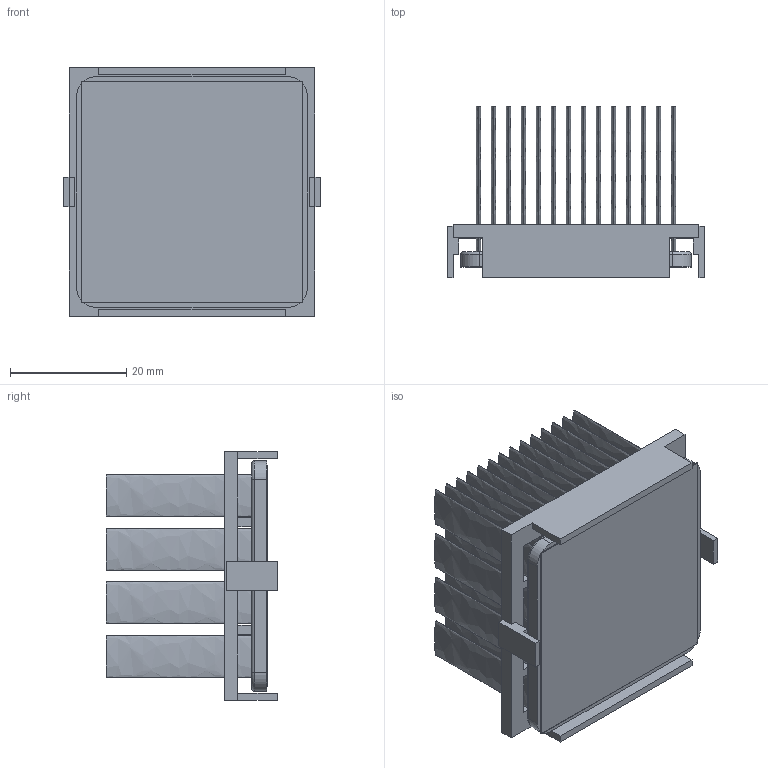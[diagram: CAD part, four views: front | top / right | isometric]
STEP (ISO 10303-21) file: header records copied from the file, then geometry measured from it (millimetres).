
FILE_DESCRIPTION (( 'STEP AP214' ), '1' );
FILE_NAME ('INM40001-28W-2.6BU.STEP', '2023-02-21T17:44:47', ( '' ), ( '' ), 'SwSTEP 2.0', 'SolidWorks 2020', '' );
FILE_SCHEMA (( 'AUTOMOTIVE_DESIGN' ));
Length unit declared in the file: inch
Products named in the file (1): INM40001-28W-2.6BU
Bounding box: 44.2 x 29.5 x 42.7 mm (x, y, z)
Volume: 12675.3 mm3; surface area: 30127 mm2
Topology: 3 solids, 3 shells, 250 faces, 556 edges, 368 vertices
Faces by surface type: plane 126, bspline 112, cylinder 8, torus 4
Entity records: 10428 total; most frequent: CARTESIAN_POINT 2631, ORIENTED_EDGE 1112, DIRECTION 630, EDGE_CURVE 556, VERTEX_POINT 368, VECTOR 312, LINE 312, EDGE_LOOP 308
